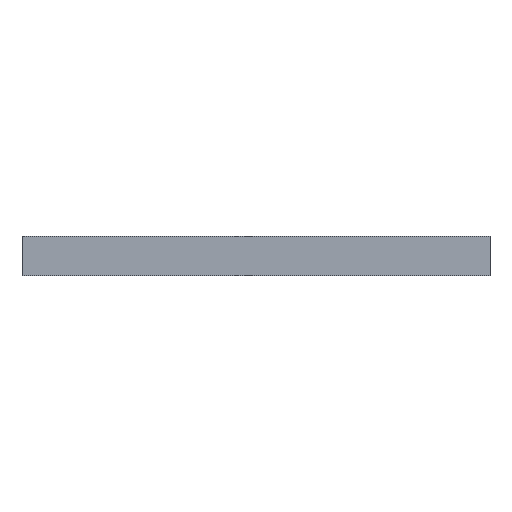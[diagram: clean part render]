
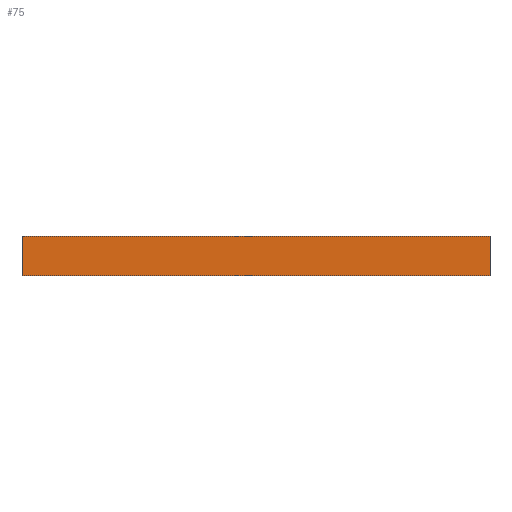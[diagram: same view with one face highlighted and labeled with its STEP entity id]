
A CAD part, left-side view. The second image highlights one B-rep face of the part: STEP entity #75.
In plain terms, the highlighted planar face has unit normal (-1, 0, 0).
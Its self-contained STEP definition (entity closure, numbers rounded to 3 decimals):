
#75=ADVANCED_FACE('',(#166),#165,.T.);
#165=PLANE('',#1128);
#166=FACE_OUTER_BOUND('',#1129,.T.);
#1125=CARTESIAN_POINT('',(-60.,-70.,-11.));
#1126=DIRECTION('',(-1.,0.,0.));
#1127=DIRECTION('',(0.,0.,1.));
#1128=AXIS2_PLACEMENT_3D('',#1125,#1126,#1127);
#1129=EDGE_LOOP('',(#1635,#1636,#1637,#1638));
#1635=ORIENTED_EDGE('',*,*,#2091,.T.);
#1636=ORIENTED_EDGE('',*,*,#2092,.T.);
#1637=ORIENTED_EDGE('',*,*,#2093,.F.);
#1638=ORIENTED_EDGE('',*,*,#2094,.T.);
#2091=EDGE_CURVE('',#2319,#2320,#2321,.T.);
#2092=EDGE_CURVE('',#2320,#2327,#2328,.T.);
#2093=EDGE_CURVE('',#2334,#2327,#2335,.T.);
#2094=EDGE_CURVE('',#2334,#2319,#2341,.T.);
#2319=VERTEX_POINT('',#3839);
#2320=VERTEX_POINT('',#3840);
#2321=LINE('',#3841,#3842);
#2327=VERTEX_POINT('',#3844);
#2328=LINE('',#3845,#3846);
#2334=VERTEX_POINT('',#3848);
#2335=LINE('',#3849,#3850);
#2341=LINE('',#3852,#3853);
#3839=CARTESIAN_POINT('',(-60.,-60.,-10.));
#3840=CARTESIAN_POINT('',(-60.,-60.,0.));
#3841=CARTESIAN_POINT('',(-60.,-60.,-10.));
#3842=VECTOR('',#3843,10.);
#3843=DIRECTION('',(0.,0.,1.));
#3844=CARTESIAN_POINT('',(-60.,60.,0.));
#3845=CARTESIAN_POINT('',(-60.,-60.,0.));
#3846=VECTOR('',#3847,120.);
#3847=DIRECTION('',(0.,1.,0.));
#3848=CARTESIAN_POINT('',(-60.,60.,-10.));
#3849=CARTESIAN_POINT('',(-60.,60.,-10.));
#3850=VECTOR('',#3851,10.);
#3851=DIRECTION('',(0.,0.,1.));
#3852=CARTESIAN_POINT('',(-60.,60.,-10.));
#3853=VECTOR('',#3854,120.);
#3854=DIRECTION('',(0.,-1.,0.));
